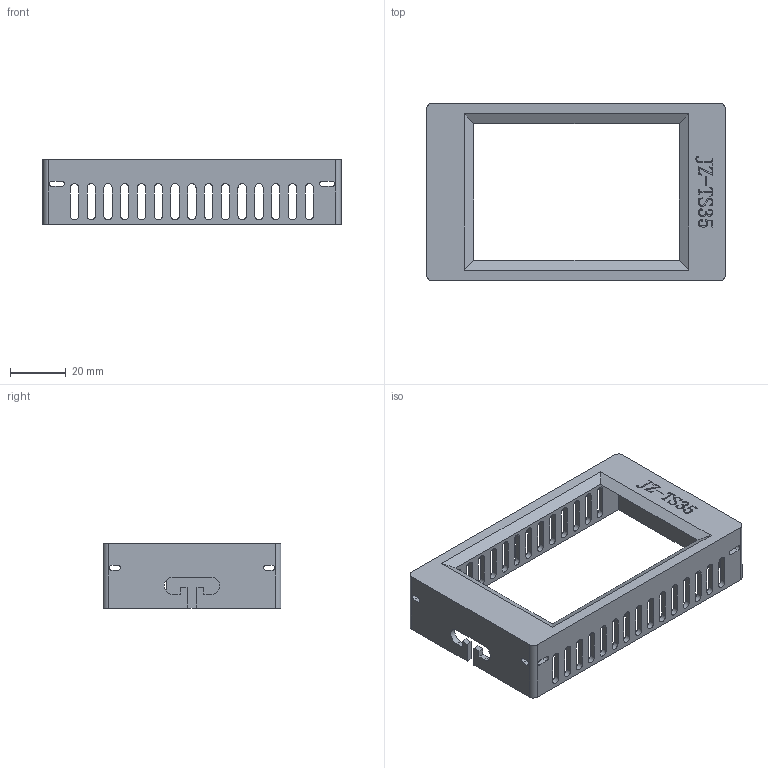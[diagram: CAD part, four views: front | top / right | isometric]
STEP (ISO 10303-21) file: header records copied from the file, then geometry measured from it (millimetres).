
FILE_DESCRIPTION (( 'STEP AP203' ), '1' );
FILE_NAME ('そ躉碟赽TFT3.5.STEP', '2019-09-24T13:17:45', ( 'Looming' ), ( 'Microsoft' ), 'SwSTEP 2.0', 'SolidWorks 2016', '' );
FILE_SCHEMA (( 'CONFIG_CONTROL_DESIGN' ));
Length unit declared in the file: millimetre
Products named in the file (1): そ躉碟赽TFT3.5
Bounding box: 106.7 x 63.6 x 23 mm (x, y, z)
Volume: 17464.2 mm3; surface area: 20589.4 mm2
Topology: 1 solids, 1 shells, 368 faces, 1054 edges, 700 vertices
Faces by surface type: plane 184, cylinder 124, bspline 60
Entity records: 15203 total; most frequent: CARTESIAN_POINT 5503, ORIENTED_EDGE 2108, DIRECTION 1800, EDGE_CURVE 1054, VERTEX_POINT 700, VECTOR 686, LINE 686, AXIS2_PLACEMENT_3D 557
